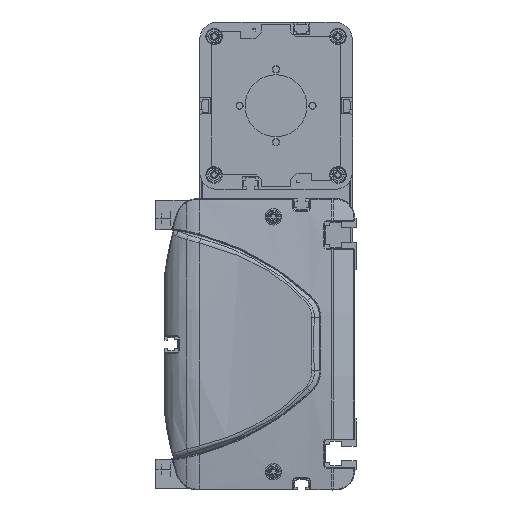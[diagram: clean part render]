
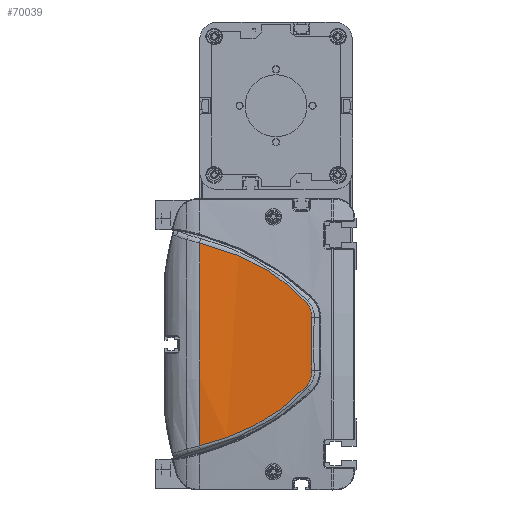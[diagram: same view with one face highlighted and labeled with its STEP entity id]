
A CAD part, left-side view. The second image highlights one B-rep face of the part: STEP entity #70039.
In plain terms, the highlighted cylindrical face has radius 600 mm (diameter 1200 mm), a partial arc.
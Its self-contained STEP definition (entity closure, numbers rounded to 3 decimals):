
#65058=CARTESIAN_POINT('',(-12.406,86.,
55.736));
#65059=CARTESIAN_POINT('',(-12.529,80.495,
54.41));
#65060=CARTESIAN_POINT('',(-12.828,69.636,
51.114));
#65061=CARTESIAN_POINT('',(-13.389,54.079,
44.179));
#65062=CARTESIAN_POINT('',(-14.01,39.709,
34.979));
#65063=CARTESIAN_POINT('',(-14.395,31.353,
27.243));
#65064=CARTESIAN_POINT('',(-14.555,27.451,
23.113));
#65066=CARTESIAN_POINT('',(-14.555,27.451,
23.113));
#65067=CARTESIAN_POINT('',(-14.641,25.336,
20.875));
#65068=CARTESIAN_POINT('',(-14.745,24.202,
17.745));
#65069=CARTESIAN_POINT('',(-14.821,24.351,
14.67));
#65071=CARTESIAN_POINT('',(-14.821,24.351,
14.67));
#65072=CARTESIAN_POINT('',(-14.9,24.51,
11.413));
#65073=CARTESIAN_POINT('',(-15.007,24.721,
4.895));
#65074=CARTESIAN_POINT('',(-15.007,24.721,
-4.895));
#65075=CARTESIAN_POINT('',(-14.9,24.51,
-11.413));
#65076=CARTESIAN_POINT('',(-14.821,24.351,
-14.67));
#65078=CARTESIAN_POINT('',(-14.821,24.351,
-14.67));
#65079=CARTESIAN_POINT('',(-14.745,24.202,
-17.745));
#65080=CARTESIAN_POINT('',(-14.641,25.337,
-20.876));
#65081=CARTESIAN_POINT('',(-14.555,27.451,
-23.113));
#65083=CARTESIAN_POINT('',(-14.555,27.451,
-23.113));
#65084=CARTESIAN_POINT('',(-14.395,31.353,
-27.243));
#65085=CARTESIAN_POINT('',(-14.01,39.709,
-34.979));
#65086=CARTESIAN_POINT('',(-13.389,54.079,
-44.179));
#65087=CARTESIAN_POINT('',(-12.828,69.636,
-51.114));
#65088=CARTESIAN_POINT('',(-12.529,80.495,
-54.41));
#65089=CARTESIAN_POINT('',(-12.406,86.,
-55.736));
#65091=CARTESIAN_POINT('',(585.,86.,0.));
#65092=DIRECTION('',(0.,1.,0.));
#65093=DIRECTION('',(-0.996,0.,-0.093));
#65094=AXIS2_PLACEMENT_3D('',#65091,#65092,#65093);
#65107=CARTESIAN_POINT('',(-12.406,86.,
55.736));
#65615=VERTEX_POINT('',#65107);
#65616=CARTESIAN_POINT('',(-12.406,86.,
-55.736));
#65617=VERTEX_POINT('',#65616);
#65669=VERTEX_POINT('',#65064);
#65670=VERTEX_POINT('',#65069);
#65671=VERTEX_POINT('',#65076);
#65672=VERTEX_POINT('',#65081);
#70021=CARTESIAN_POINT('',(585.,87.45,0.));
#70022=DIRECTION('',(0.,-1.,0.));
#70023=DIRECTION('',(0.,0.,-1.));
#70024=AXIS2_PLACEMENT_3D('',#70021,#70022,#70023);
#70025=CYLINDRICAL_SURFACE('',#70024,600.);
#70027=ORIENTED_EDGE('',*,*,#70026,.T.);
#70029=ORIENTED_EDGE('',*,*,#70028,.T.);
#70030=ORIENTED_EDGE('',*,*,#70011,.T.);
#70032=ORIENTED_EDGE('',*,*,#70031,.T.);
#70034=ORIENTED_EDGE('',*,*,#70033,.T.);
#70036=ORIENTED_EDGE('',*,*,#70035,.T.);
#70037=EDGE_LOOP('',(#70027,#70029,#70030,#70032,#70034,#70036));
#70038=FACE_OUTER_BOUND('',#70037,.F.);
#70039=ADVANCED_FACE('',(#70038),#70025,.T.);
#65065=B_SPLINE_CURVE_WITH_KNOTS('',3,(#65058,#65059,#65060,#65061,#65062,
#65063,#65064),.UNSPECIFIED.,.F.,.F.,(4,1,1,1,4),(0.,0.25,0.5,0.75,
1.),.UNSPECIFIED.);
#65070=B_SPLINE_CURVE_WITH_KNOTS('',3,(#65066,#65067,#65068,#65069),
.UNSPECIFIED.,.F.,.F.,(4,4),(0.,1.),.UNSPECIFIED.);
#65077=B_SPLINE_CURVE_WITH_KNOTS('',3,(#65071,#65072,#65073,#65074,#65075,
#65076),.UNSPECIFIED.,.F.,.F.,(4,1,1,4),(0.,0.333,
0.667,1.),.UNSPECIFIED.);
#65082=B_SPLINE_CURVE_WITH_KNOTS('',3,(#65078,#65079,#65080,#65081),
.UNSPECIFIED.,.F.,.F.,(4,4),(0.,1.),.UNSPECIFIED.);
#65090=B_SPLINE_CURVE_WITH_KNOTS('',3,(#65083,#65084,#65085,#65086,#65087,
#65088,#65089),.UNSPECIFIED.,.F.,.F.,(4,1,1,1,4),(0.,0.25,0.5,0.75,
1.),.UNSPECIFIED.);
#65095=CIRCLE('',#65094,600.);
#70011=EDGE_CURVE('',#65670,#65671,#65077,.T.);
#70026=EDGE_CURVE('',#65615,#65669,#65065,.T.);
#70028=EDGE_CURVE('',#65669,#65670,#65070,.T.);
#70031=EDGE_CURVE('',#65671,#65672,#65082,.T.);
#70033=EDGE_CURVE('',#65672,#65617,#65090,.T.);
#70035=EDGE_CURVE('',#65617,#65615,#65095,.T.);
